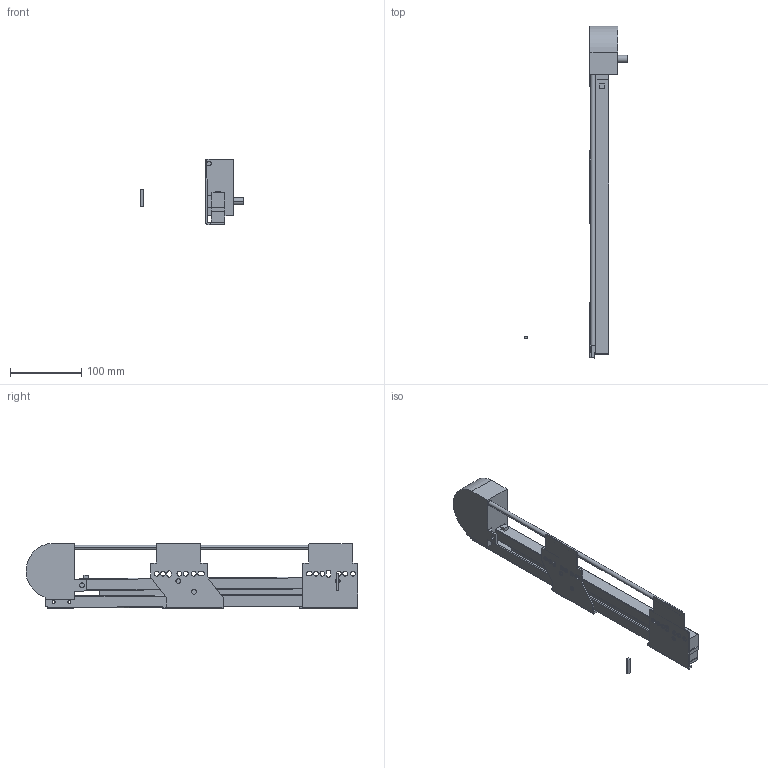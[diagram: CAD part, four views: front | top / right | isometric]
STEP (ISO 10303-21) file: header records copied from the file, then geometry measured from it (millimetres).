
FILE_DESCRIPTION (( 'STEP AP214' ), '1' );
FILE_NAME ('_IMOS_NOVA-Pro_Sensotronic_KS_P907_LI_NL-400_EB29mm.step', '2010-07-23T08:20:06', ( 'grass' ), ( '' ), 'SwSTEP 2.0', 'SolidWorks 2009', '' );
FILE_SCHEMA (( 'AUTOMOTIVE_DESIGN' ));
Length unit declared in the file: millimetre
Products named in the file (1): _IMOS_NOVA-Pro_Sensotronic_KS_P907_LI_NL-400_EB29mm
Bounding box: 145.8 x 466.55 x 92.37 mm (x, y, z)
Volume: 498258.8 mm3; surface area: 120307.5 mm2
Topology: 3 solids, 3 shells, 160 faces, 452 edges, 300 vertices
Faces by surface type: plane 96, cylinder 64
Entity records: 5325 total; most frequent: CARTESIAN_POINT 931, ORIENTED_EDGE 904, DIRECTION 897, EDGE_CURVE 452, LINE 317, VECTOR 317, VERTEX_POINT 300, AXIS2_PLACEMENT_3D 290
